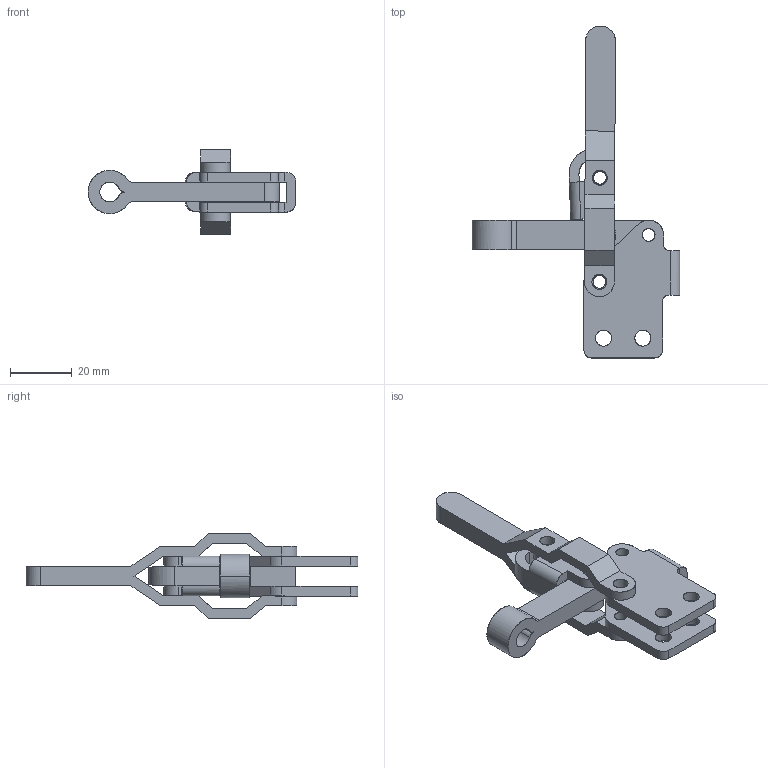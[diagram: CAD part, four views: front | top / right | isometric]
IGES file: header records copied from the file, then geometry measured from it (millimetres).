
Start section: Comment
Global section: file name: 12055.igs; native system:  By Spatial Corp.; preprocessor: XPlus PS/IGES 3.0; author: Author; organization: Title; date: 20050216.170326; units: inch
Bounding box: 67.1 x 107.14 x 27.3 mm (x, y, z)
Surface area: 13808 mm2 (no closed solid volume)
Topology: 0 solids, 0 shells, 146 faces, 820 edges, 820 vertices
Faces by surface type: revolution 78, extrusion 68
